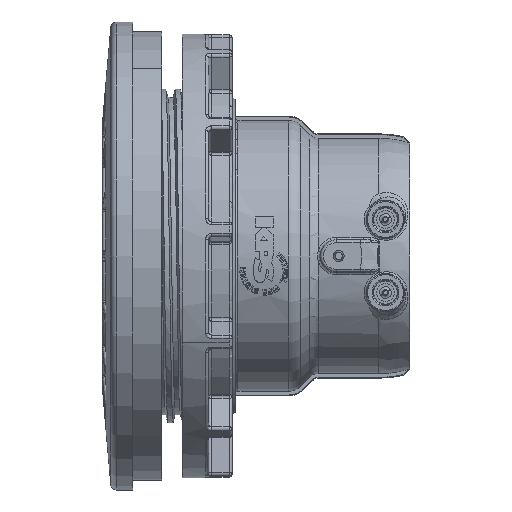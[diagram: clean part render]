
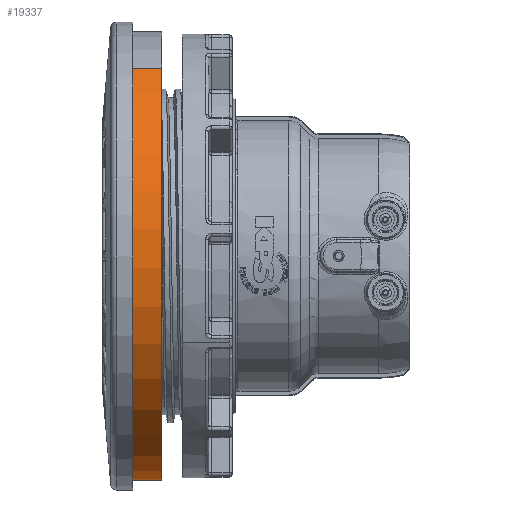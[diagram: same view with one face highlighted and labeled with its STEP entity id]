
A CAD part, left-side view. The second image highlights one B-rep face of the part: STEP entity #19337.
In plain terms, the highlighted cylindrical face has radius 76.75 mm (diameter 153.5 mm), a partial arc.
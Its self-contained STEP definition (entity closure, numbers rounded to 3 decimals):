
#2638 = EDGE_CURVE ( 'NONE', #74594, #74595, #64912, .T. ) ;
#18753 = ORIENTED_EDGE ( 'NONE', *, *, #2638, .T. ) ;
#18850 = EDGE_LOOP ( 'NONE', ( #32617, #35994, #31344, #18753 ) ) ;
#19325 = EDGE_CURVE ( 'NONE', #74543, #74555, #25731, .T. ) ;
#19337 = ADVANCED_FACE ( 'NONE', ( #25765 ), #25727, .T. ) ;
#25727 = CYLINDRICAL_SURFACE ( 'NONE', #25741, 76.75 ) ;
#25731 = CIRCLE ( 'NONE', #25772, 76.75 ) ;
#25741 = AXIS2_PLACEMENT_3D ( 'NONE', #25795, #25742, #25764 ) ;
#25742 = DIRECTION ( 'NONE',  ( 0., 1., 0. ) ) ;
#25764 = DIRECTION ( 'NONE',  ( -0.547, 0., 0.837 ) ) ;
#25765 = FACE_OUTER_BOUND ( 'NONE', #18850, .T. ) ;
#25769 = DIRECTION ( 'NONE',  ( -0.547, 0., 0.837 ) ) ;
#25770 = DIRECTION ( 'NONE',  ( 0., 1., 0. ) ) ;
#25771 = CARTESIAN_POINT ( 'NONE',  ( -4.151, 42.954, -5.139 ) ) ;
#25772 = AXIS2_PLACEMENT_3D ( 'NONE', #25771, #25770, #25769 ) ;
#25795 = CARTESIAN_POINT ( 'NONE',  ( -4.151, 52.954, -5.139 ) ) ;
#31344 = ORIENTED_EDGE ( 'NONE', *, *, #74646, .T. ) ;
#32617 = ORIENTED_EDGE ( 'NONE', *, *, #74585, .F. ) ;
#35994 = ORIENTED_EDGE ( 'NONE', *, *, #19325, .T. ) ;
#64809 = AXIS2_PLACEMENT_3D ( 'NONE', #64905, #64903, #64901 ) ;
#64901 = DIRECTION ( 'NONE',  ( 0., 0., 1. ) ) ;
#64903 = DIRECTION ( 'NONE',  ( 0., -1., 0. ) ) ;
#64905 = CARTESIAN_POINT ( 'NONE',  ( -4.151, 52.954, -5.139 ) ) ;
#64912 = CIRCLE ( 'NONE', #64809, 76.75 ) ;
#73069 = CARTESIAN_POINT ( 'NONE',  ( 37.827, 42.954, -69.392 ) ) ;
#73094 = CARTESIAN_POINT ( 'NONE',  ( -46.128, 42.954, 59.113 ) ) ;
#73156 = CARTESIAN_POINT ( 'NONE',  ( 37.827, 52.954, -69.392 ) ) ;
#73181 = CARTESIAN_POINT ( 'NONE',  ( -46.128, 52.954, 59.113 ) ) ;
#73200 = DIRECTION ( 'NONE',  ( 0., 1., 0. ) ) ;
#73201 = VECTOR ( 'NONE', #73200, 1000. ) ;
#73202 = CARTESIAN_POINT ( 'NONE',  ( 37.827, 52.954, -69.392 ) ) ;
#73203 = LINE ( 'NONE', #73202, #73201 ) ;
#73372 = DIRECTION ( 'NONE',  ( 0., 1., 0. ) ) ;
#73373 = VECTOR ( 'NONE', #73372, 1000. ) ;
#73374 = CARTESIAN_POINT ( 'NONE',  ( -46.128, 52.954, 59.113 ) ) ;
#73376 = LINE ( 'NONE', #73374, #73373 ) ;
#74543 = VERTEX_POINT ( 'NONE', #73069 ) ;
#74555 = VERTEX_POINT ( 'NONE', #73094 ) ;
#74585 = EDGE_CURVE ( 'NONE', #74543, #74595, #73203, .T. ) ;
#74594 = VERTEX_POINT ( 'NONE', #73181 ) ;
#74595 = VERTEX_POINT ( 'NONE', #73156 ) ;
#74646 = EDGE_CURVE ( 'NONE', #74555, #74594, #73376, .T. ) ;
